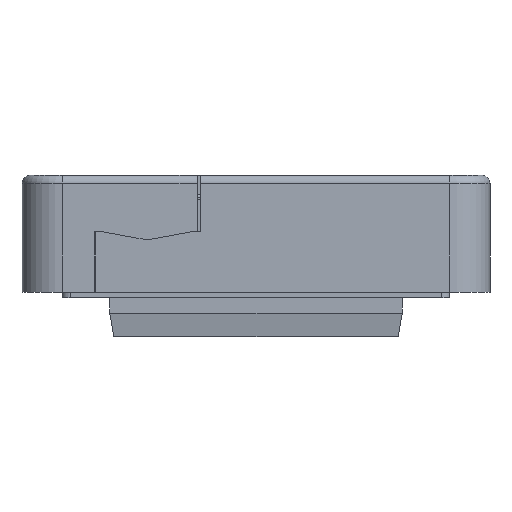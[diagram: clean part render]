
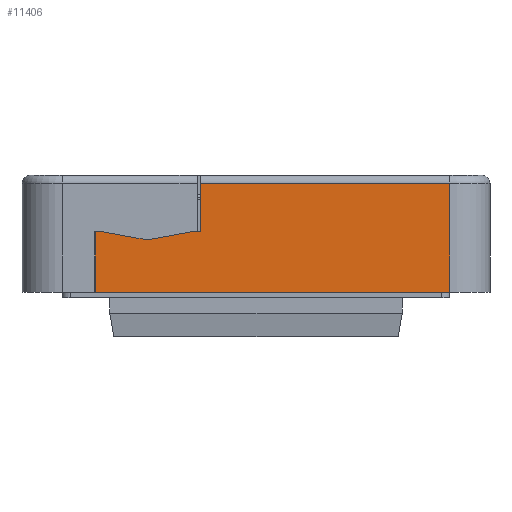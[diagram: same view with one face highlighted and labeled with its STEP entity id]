
A CAD part, left-side view. The second image highlights one B-rep face of the part: STEP entity #11406.
In plain terms, the highlighted planar face has unit normal (-1, 0, 0) as drawn and (1, 0, 0) by its records, which use the part's own axes.
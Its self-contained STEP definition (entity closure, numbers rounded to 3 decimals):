
#320=PLANE('',#12320);
#1287=LINE('',#18957,#2361);
#1293=LINE('',#18969,#2367);
#1296=LINE('',#18975,#2370);
#1297=LINE('',#18977,#2371);
#1298=LINE('',#18979,#2372);
#1299=LINE('',#18981,#2373);
#1300=LINE('',#18983,#2374);
#1301=LINE('',#18985,#2375);
#1302=LINE('',#18986,#2376);
#2361=VECTOR('',#14369,10.);
#2367=VECTOR('',#14377,10.);
#2370=VECTOR('',#14382,10.);
#2371=VECTOR('',#14383,10.);
#2372=VECTOR('',#14384,10.);
#2373=VECTOR('',#14385,10.);
#2374=VECTOR('',#14386,10.);
#2375=VECTOR('',#14387,10.);
#2376=VECTOR('',#14388,10.);
#3422=FACE_OUTER_BOUND('',#4115,.T.);
#4115=EDGE_LOOP('',(#9503,#9504,#9505,#9506,#9507,#9508,#9509,#9510,#9511));
#5397=VERTEX_POINT('',#18955);
#5398=VERTEX_POINT('',#18956);
#5403=VERTEX_POINT('',#18968);
#5405=VERTEX_POINT('',#18974);
#5406=VERTEX_POINT('',#18976);
#5407=VERTEX_POINT('',#18978);
#5408=VERTEX_POINT('',#18980);
#5409=VERTEX_POINT('',#18982);
#5410=VERTEX_POINT('',#18984);
#6843=EDGE_CURVE('',#5397,#5398,#1287,.T.);
#6849=EDGE_CURVE('',#5403,#5397,#1293,.T.);
#6852=EDGE_CURVE('',#5405,#5398,#1296,.T.);
#6853=EDGE_CURVE('',#5406,#5405,#1297,.T.);
#6854=EDGE_CURVE('',#5407,#5406,#1298,.T.);
#6855=EDGE_CURVE('',#5407,#5408,#1299,.T.);
#6856=EDGE_CURVE('',#5408,#5409,#1300,.T.);
#6857=EDGE_CURVE('',#5409,#5410,#1301,.T.);
#6858=EDGE_CURVE('',#5410,#5403,#1302,.T.);
#9503=ORIENTED_EDGE('',*,*,#6843,.T.);
#9504=ORIENTED_EDGE('',*,*,#6852,.F.);
#9505=ORIENTED_EDGE('',*,*,#6853,.F.);
#9506=ORIENTED_EDGE('',*,*,#6854,.F.);
#9507=ORIENTED_EDGE('',*,*,#6855,.T.);
#9508=ORIENTED_EDGE('',*,*,#6856,.T.);
#9509=ORIENTED_EDGE('',*,*,#6857,.T.);
#9510=ORIENTED_EDGE('',*,*,#6858,.T.);
#9511=ORIENTED_EDGE('',*,*,#6849,.T.);
#11406=ADVANCED_FACE('',(#3422),#320,.T.);
#12320=AXIS2_PLACEMENT_3D('',#18973,#14380,#14381);
#14369=DIRECTION('',(0.,0.,1.));
#14377=DIRECTION('',(0.,1.,0.));
#14380=DIRECTION('center_axis',(1.,0.,0.));
#14381=DIRECTION('ref_axis',(0.,0.,-1.));
#14382=DIRECTION('',(0.,1.,0.));
#14383=DIRECTION('',(0.,0.,1.));
#14384=DIRECTION('',(0.,-1.,0.));
#14385=DIRECTION('',(0.,0.,1.));
#14386=DIRECTION('',(0.,1.,0.));
#14387=DIRECTION('',(0.,0.984,0.179));
#14388=DIRECTION('',(0.,0.984,-0.179));
#18955=CARTESIAN_POINT('',(60.5,19.9,-8.));
#18956=CARTESIAN_POINT('',(60.5,19.9,-0.5));
#18957=CARTESIAN_POINT('',(60.5,19.9,-2.554));
#18968=CARTESIAN_POINT('',(60.5,19.,-8.));
#18969=CARTESIAN_POINT('',(60.5,-3.75,-8.));
#18973=CARTESIAN_POINT('Origin',(60.5,-27.5,0.));
#18974=CARTESIAN_POINT('',(60.5,-24.,-0.5));
#18975=CARTESIAN_POINT('',(60.5,-29.,-0.5));
#18976=CARTESIAN_POINT('',(60.5,-24.,-14.));
#18977=CARTESIAN_POINT('',(60.5,-24.,-0.25));
#18978=CARTESIAN_POINT('',(60.5,6.9,-14.));
#18979=CARTESIAN_POINT('',(60.5,-13.75,-14.));
#18980=CARTESIAN_POINT('',(60.5,6.9,-8.));
#18981=CARTESIAN_POINT('',(60.5,6.9,-5.928));
#18982=CARTESIAN_POINT('',(60.5,8.,-8.));
#18983=CARTESIAN_POINT('',(60.5,-3.75,-8.));
#18984=CARTESIAN_POINT('',(60.5,13.5,-7.));
#18985=CARTESIAN_POINT('',(60.5,-5.728,-10.496));
#18986=CARTESIAN_POINT('',(60.5,-4.21,-3.78));
